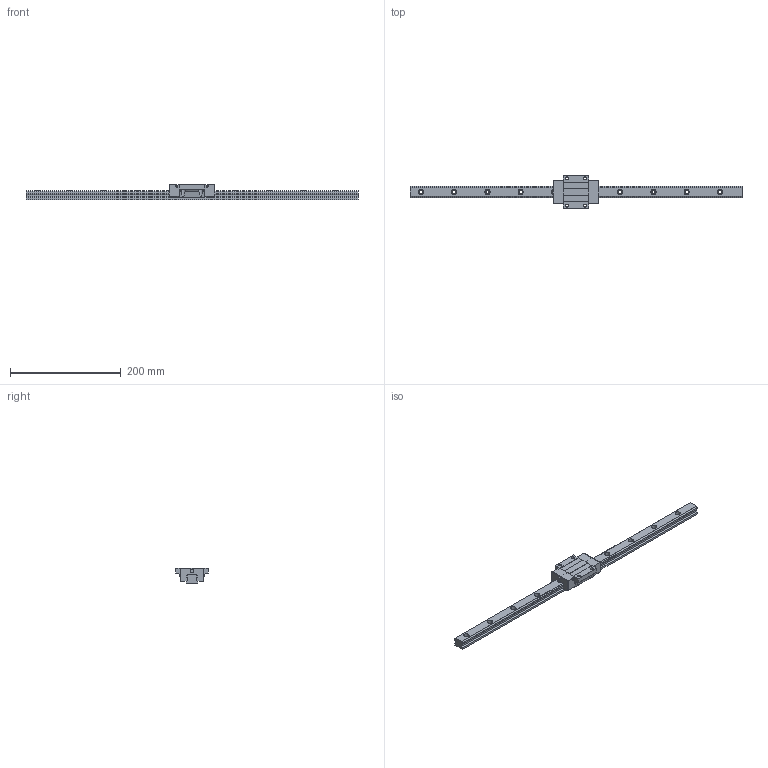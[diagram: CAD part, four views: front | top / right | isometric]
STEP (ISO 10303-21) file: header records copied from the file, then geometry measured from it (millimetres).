
FILE_DESCRIPTION (( 'STEP AP203' ), '1' );
FILE_NAME ('TRS20FN-SZ.STEP', '2024-07-11T00:50:18', ( '' ), ( '' ), 'SwSTEP 2.0', 'SolidWorks 2022', '' );
FILE_SCHEMA (( 'CONFIG_CONTROL_DESIGN' ));
Length unit declared in the file: millimetre
Products named in the file (1): TRS20FN-SZ
Bounding box: 600 x 59 x 28 mm (x, y, z)
Volume: 234165.4 mm3; surface area: 66582.5 mm2
Topology: 2 solids, 2 shells, 234 faces, 618 edges, 400 vertices
Faces by surface type: cylinder 124, plane 106, sphere 4
Entity records: 7573 total; most frequent: CARTESIAN_POINT 1509, DIRECTION 1284, ORIENTED_EDGE 1228, EDGE_CURVE 614, AXIS2_PLACEMENT_3D 459, VERTEX_POINT 400, LINE 366, VECTOR 366
